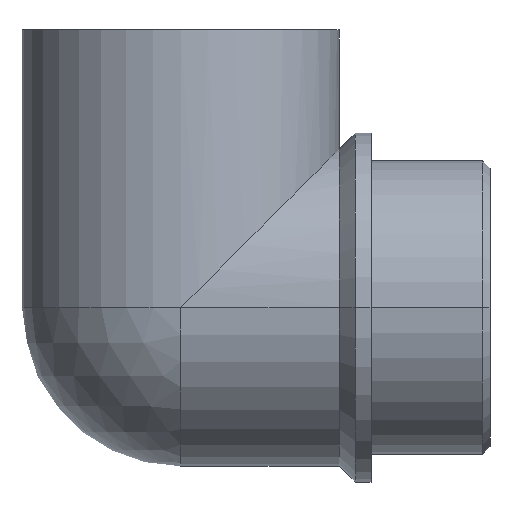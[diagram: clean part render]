
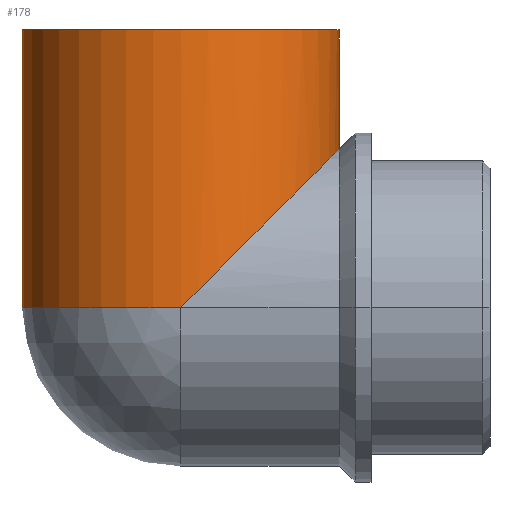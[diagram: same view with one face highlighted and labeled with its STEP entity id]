
A CAD part, front view. The second image highlights one B-rep face of the part: STEP entity #178.
In plain terms, the highlighted cylindrical face has radius 20 mm (diameter 40 mm), a partial arc.
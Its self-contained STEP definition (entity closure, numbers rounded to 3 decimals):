
#90 = EDGE_CURVE ( 'NONE', #2004, #1837, #726, .T. ) ;
#145 = EDGE_CURVE ( 'NONE', #1847, #1915, #768, .T. ) ;
#178 = ADVANCED_FACE ( 'NONE', ( #834 ), #829, .T. ) ;
#179 = EDGE_LOOP ( 'NONE', ( #180, #181, #226, #227, #228 ) ) ;
#180 = ORIENTED_EDGE ( 'NONE', *, *, #2000, .F. ) ;
#181 = ORIENTED_EDGE ( 'NONE', *, *, #90, .F. ) ;
#226 = ORIENTED_EDGE ( 'NONE', *, *, #1841, .T. ) ;
#227 = ORIENTED_EDGE ( 'NONE', *, *, #145, .T. ) ;
#228 = ORIENTED_EDGE ( 'NONE', *, *, #1914, .F. ) ;
#722 = DIRECTION ( 'NONE',  ( 1., 0., 0. ) ) ;
#723 = DIRECTION ( 'NONE',  ( 0., 0., 1. ) ) ;
#724 = CARTESIAN_POINT ( 'NONE',  ( -39., 0., 35. ) ) ;
#725 = AXIS2_PLACEMENT_3D ( 'NONE', #724, #723, #722 ) ;
#726 = CIRCLE ( 'NONE', #725, 20. ) ;
#765 = DIRECTION ( 'NONE',  ( 0., 0., 1. ) ) ;
#766 = CARTESIAN_POINT ( 'NONE',  ( -39., 0., 0. ) ) ;
#767 = AXIS2_PLACEMENT_3D ( 'NONE', #766, #765, #820 ) ;
#768 = CIRCLE ( 'NONE', #767, 20. ) ;
#820 = DIRECTION ( 'NONE',  ( 1., 0., 0. ) ) ;
#824 = DIRECTION ( 'NONE',  ( -1., 0., 0. ) ) ;
#825 = DIRECTION ( 'NONE',  ( 0., 0., -1. ) ) ;
#826 = CARTESIAN_POINT ( 'NONE',  ( -39., 0., 35. ) ) ;
#827 = AXIS2_PLACEMENT_3D ( 'NONE', #826, #825, #824 ) ;
#829 = CYLINDRICAL_SURFACE ( 'NONE', #827, 20. ) ;
#834 = FACE_OUTER_BOUND ( 'NONE', #179, .T. ) ;
#1382 = DIRECTION ( 'NONE',  ( 0., 0., -1. ) ) ;
#1383 = VECTOR ( 'NONE', #1382, 1000. ) ;
#1384 = CARTESIAN_POINT ( 'NONE',  ( -59., 0., 35. ) ) ;
#1385 = LINE ( 'NONE', #1384, #1383 ) ;
#1393 = CARTESIAN_POINT ( 'NONE',  ( -19., 0., 35. ) ) ;
#1419 = CARTESIAN_POINT ( 'NONE',  ( -59., 0., 0. ) ) ;
#1530 =( BOUNDED_CURVE ( )  B_SPLINE_CURVE ( 3, ( #1583, #1582, #1581, #1580 ),
 .UNSPECIFIED., .F., .T. ) 
 B_SPLINE_CURVE_WITH_KNOTS ( ( 4, 4 ),
 ( 0., 1.571 ),
 .UNSPECIFIED. ) 
 CURVE ( )  GEOMETRIC_REPRESENTATION_ITEM ( )  RATIONAL_B_SPLINE_CURVE ( ( 1., 0.805, 0.805, 1. ) ) 
 REPRESENTATION_ITEM ( '' )  );
#1532 = CARTESIAN_POINT ( 'NONE',  ( -39., -20., 0. ) ) ;
#1580 = CARTESIAN_POINT ( 'NONE',  ( -39., -20., 0. ) ) ;
#1581 = CARTESIAN_POINT ( 'NONE',  ( -27.284, -20., 11.716 ) ) ;
#1582 = CARTESIAN_POINT ( 'NONE',  ( -19., -11.716, 20. ) ) ;
#1583 = CARTESIAN_POINT ( 'NONE',  ( -19., 0., 20. ) ) ;
#1672 = LINE ( 'NONE', #1729, #1728 ) ;
#1720 = CARTESIAN_POINT ( 'NONE',  ( -59., 0., 35. ) ) ;
#1726 = CARTESIAN_POINT ( 'NONE',  ( -19., 0., 20. ) ) ;
#1727 = DIRECTION ( 'NONE',  ( 0., 0., -1. ) ) ;
#1728 = VECTOR ( 'NONE', #1727, 1000. ) ;
#1729 = CARTESIAN_POINT ( 'NONE',  ( -19., 0., 35. ) ) ;
#1837 = VERTEX_POINT ( 'NONE', #1393 ) ;
#1841 = EDGE_CURVE ( 'NONE', #2004, #1847, #1385, .T. ) ;
#1847 = VERTEX_POINT ( 'NONE', #1419 ) ;
#1914 = EDGE_CURVE ( 'NONE', #2001, #1915, #1530, .T. ) ;
#1915 = VERTEX_POINT ( 'NONE', #1532 ) ;
#2000 = EDGE_CURVE ( 'NONE', #1837, #2001, #1672, .T. ) ;
#2001 = VERTEX_POINT ( 'NONE', #1726 ) ;
#2004 = VERTEX_POINT ( 'NONE', #1720 ) ;
